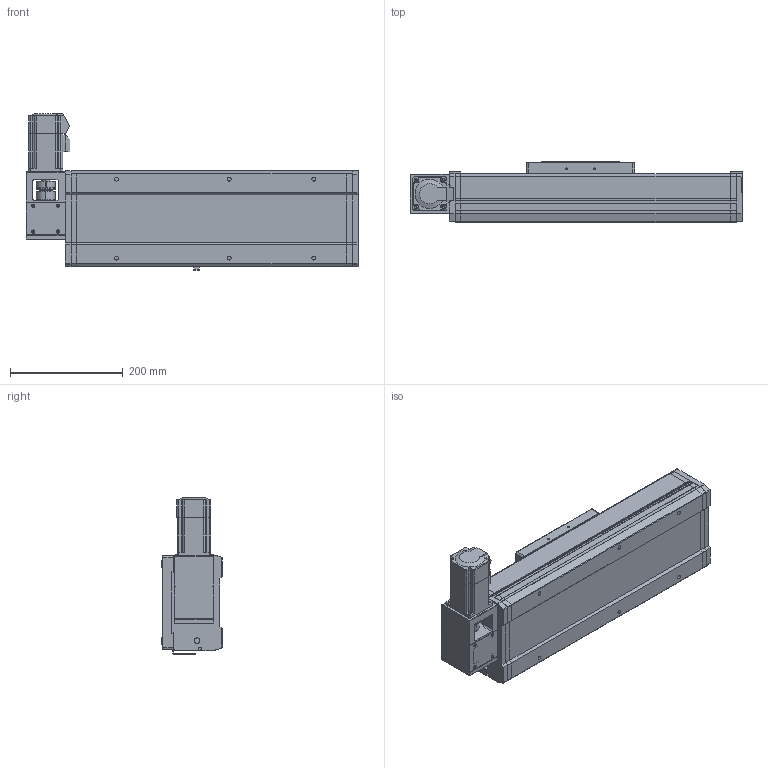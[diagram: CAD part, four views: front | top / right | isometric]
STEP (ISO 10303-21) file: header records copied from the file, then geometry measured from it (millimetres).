
FILE_DESCRIPTION((''),'2;1');
FILE_NAME('170-TZJ3FL-S200_ASM','2015-12-04T',('lenovo'),(''),'PRO/ENGINEER BY PARAMETRIC TECHNOLOGY CORPORATION, 2010280','PRO/ENGINEER BY PARAMETRIC TECHNOLOGY CORPORATION, 2010280','');
FILE_SCHEMA(('CONFIG_CONTROL_DESIGN'));
Length unit declared in the file: millimetre
Products named in the file (5): 170-TJFL-DZ; 170-HK; 170-HDB-01; 170-TZJ3FL-DJZ; 170-TZJ3FL-S200_ASM
Assembly tree (4 placements, depth 2):
  170-TZJ3FL-S200_ASM
    170-TJFL-DZ
    170-HK
    170-HDB-01
    170-TZJ3FL-DJZ
Bounding box: 589 x 107 x 278.5 mm (x, y, z)
Volume: 4990822 mm3; surface area: 815440.7 mm2
Topology: 6 solids, 30 shells, 1462 faces, 3985 edges, 2657 vertices
Faces by surface type: plane 786, cylinder 535, cone 113, torus 28
Entity records: 46939 total; most frequent: CARTESIAN_POINT 8387, DIRECTION 8228, ORIENTED_EDGE 7970, EDGE_CURVE 3985, AXIS2_PLACEMENT_3D 2814, VERTEX_POINT 2657, VECTOR 2600, LINE 2600
